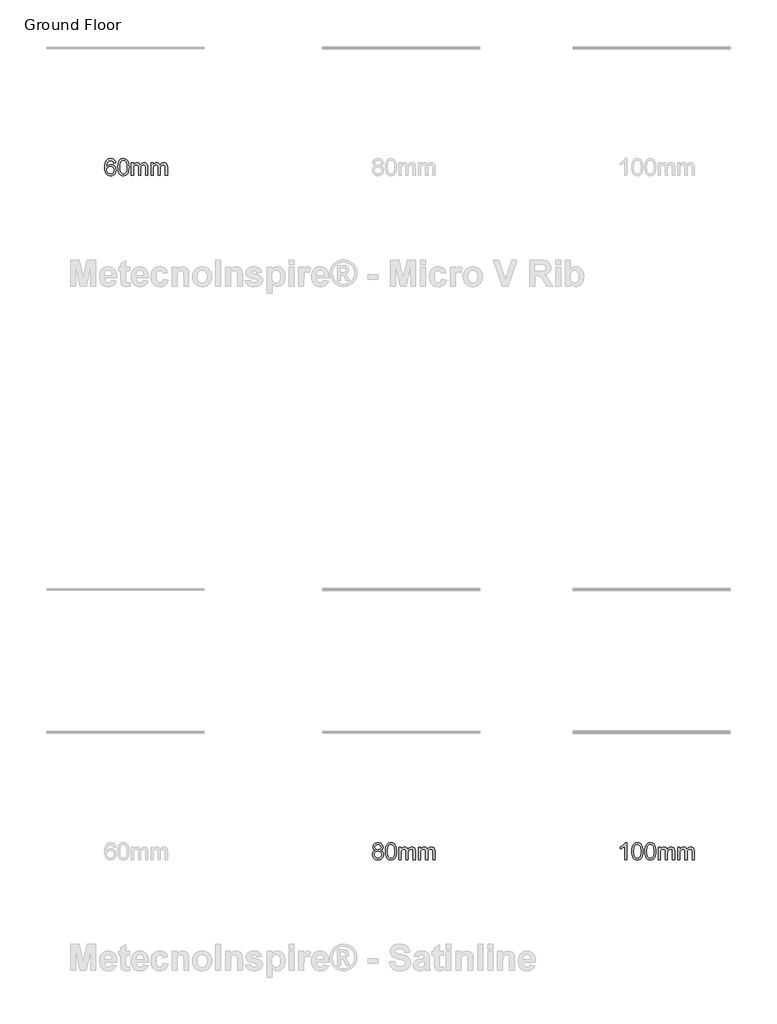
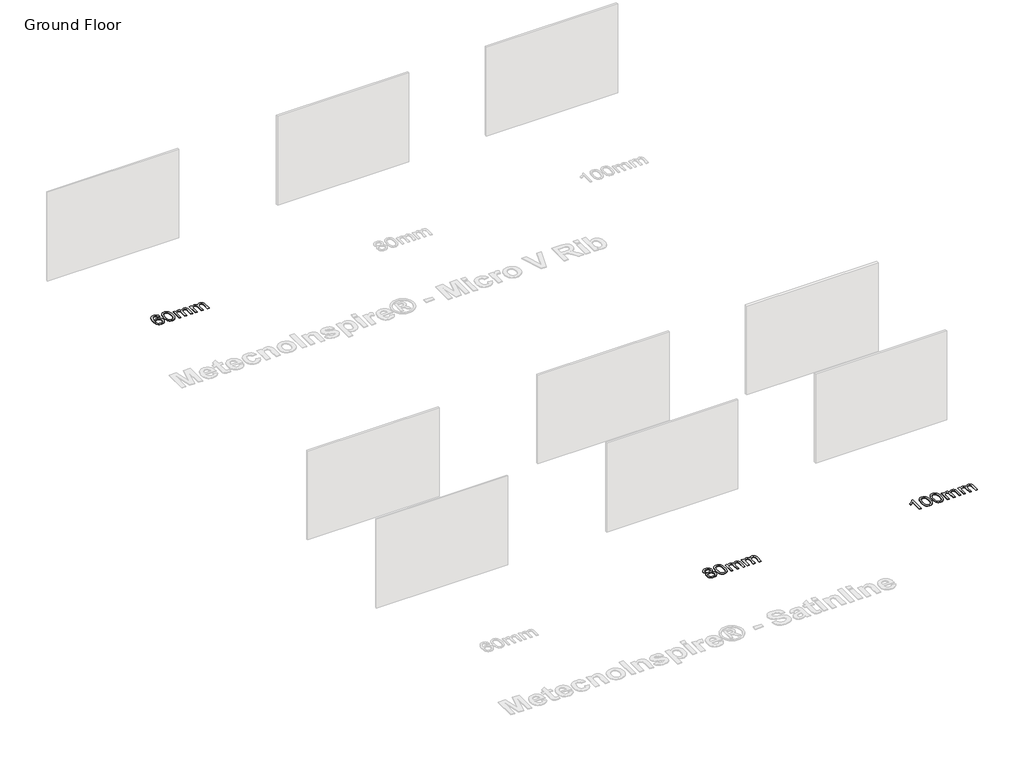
# One storey, part 6 of 14: 3 proxies.
"""IFC4 building model written with IfcOpenShell, lengths in millimetres."""

from ifc_helpers import new_model, si_unit, origin, origin_with_axes, place, context, project, spatial, polyline, outline, extrude, element, save

model = new_model("IFC4")

# Units and contexts
model_context = context("Model", 3, world=origin())
ifc_project = project(units=[si_unit("LENGTHUNIT", "METRE", prefix="MILLI")], contexts=[model_context])

# Site, building, storey
site = spatial("IfcSite", under=ifc_project)
building = spatial("IfcBuilding", under=site)
storey = spatial("IfcBuildingStorey", under=building, Name="Ground Floor", Elevation=0.0)

# Proxies
placement = place(None, origin())
element("IfcBuildingElementProxy", 1, Name="600mm Arial", ObjectType="600mm Arial", at=placement, inside=storey, context=model_context, shape_type="SweptSolid", body=[
    extrude(outline(polyline([(1909.1693094, -73892.2982382), (1833.8270768, -73901.7160173), (1821.6869709, -73864.3759948), (1805.279434, -73838.8817725), (1789.0834291, -73825.1689712), (1771.1031966, -73815.374113), (1751.3387364, -73809.4971982), (1729.7900485, -73807.5382265), (1694.7676826, -73812.0999633), (1661.8054558, -73825.7851735), (1633.4969363, -73854.6087278), (1610.3755529, -73894.284801), (1601.3394514, -73919.5904838), (1594.7589622, -73950.4051994), (1588.9648208, -74028.5617292), (1619.1863267, -73993.30024), (1655.4043091, -73968.4498112), (1695.5954171, -73953.7161373), (1737.7362996, -73948.8049127), (1773.935888, -73952.1618359), (1807.3395731, -73962.2326055), (1837.9473551, -73979.0172215), (1865.759234, -74002.515684), (1888.8714203, -74031.3300413), (1905.3801248, -74064.0623418), (1915.2853476, -74100.7125856), (1918.5870885, -74141.2807726), (1917.032787, -74168.747762), (1912.3698827, -74195.2306672), (1904.5983756, -74220.729488), (1893.7182656, -74245.2442244), (1880.1158288, -74267.8597701), (1864.1773414, -74287.6610185), (1845.9028033, -74304.6479696), (1825.2922145, -74318.8206234), (1802.7870334, -74329.9904405), (1778.8287185, -74337.9688813), (1753.4172697, -74342.7559458), (1726.552687, -74344.3516339), (1681.6388939, -74340.120991), (1641.0753054, -74327.4290621), (1604.8619215, -74306.2758474), (1572.9987422, -74276.6613468), (1547.0216748, -74237.3347615), (1528.4666267, -74187.0452928), (1517.3335978, -74125.7929406), (1513.6225882, -74053.5777049), (1517.7428665, -73972.6160748), (1530.1037016, -73903.5186391), (1550.7050933, -73846.2853977), (1564.0959979, -73822.1178499), (1579.5470417, -73800.9163506), (1610.8078143, -73770.8511946), (1647.0533878, -73749.3760831), (1688.2837624, -73736.4910162), (1734.4989381, -73732.1959939), (1769.1994073, -73734.8539413), (1800.6073326, -73742.8277836), (1828.7227141, -73756.1175207), (1853.5455517, -73774.7231526), (1874.4044608, -73798.0192799), (1890.6280568, -73825.3805033), (1902.2163397, -73856.8068227), (1909.1693094, -73892.2982382)]), holes=[polyline([(1588.9648208, -74140.1035502), (1593.3242224, -74173.4888412), (1606.4024274, -74205.3658161), (1626.7095135, -74232.7730248), (1652.7555588, -74252.7490171), (1684.1910752, -74264.9443052), (1720.6665751, -74269.0094013), (1746.8551746, -74266.9032769), (1770.3858267, -74260.5849036), (1791.2585314, -74250.0542815), (1809.4732887, -74235.3114105), (1824.2483493, -74216.954099), (1834.8019641, -74195.5801551), (1841.1341329, -74171.1895788), (1843.2448559, -74143.7823701), (1841.1617241, -74117.4466178), (1834.9123287, -74094.0631185), (1824.4966697, -74073.6318722), (1809.9147471, -74056.1528789), (1791.6448075, -74042.1503704), (1770.1650975, -74032.1485787), (1745.4756171, -74026.1475037), (1717.5763663, -74024.1471453), (1691.7372547, -74026.1475037), (1667.9306911, -74032.1485787), (1646.1566755, -74042.1503704), (1626.4152079, -74056.1528789), (1610.0306635, -74073.4019459), (1598.3274176, -74093.1434135), (1591.30547, -74115.3772816), (1588.9648208, -74140.1035502)])]), origin_with_axes(), (0.0, 0.0, 1.0), 20.0),
    extrude(outline(polyline([(1984.511542, -74038.4209667), (1990.048166, -73941.9439135), (1996.9689461, -73901.0308371), (2006.6580381, -73865.0013942), (2019.0740554, -73833.5612792), (2034.1756114, -73806.4161865), (2051.9627058, -73783.566116), (2072.4353388, -73765.0110679), (2095.6624883, -73750.654473), (2121.7131321, -73740.3997624), (2150.5872702, -73734.2469361), (2182.2849026, -73732.1959939), (2228.7116104, -73737.0520363), (2270.2822759, -73751.6201633), (2305.0471244, -73775.3301579), (2331.0563815, -73807.6118029), (2350.70128, -73848.189187), (2366.373053, -73896.7863986), (2376.6369607, -73958.4986033), (2380.0582632, -74038.4209667), (2374.5768215, -74134.346197), (2367.7250193, -74175.1213176), (2358.1324963, -74211.1047753), (2345.813048, -74242.5586858), (2330.78047, -74269.7451653), (2313.0347622, -74292.6642136), (2292.5759248, -74311.3158307), (2269.3211841, -74325.7689946), (2243.1877669, -74336.0926831), (2214.1756731, -74342.2868962), (2182.2849026, -74344.3516339), (2140.7878136, -74340.7647845), (2103.999614, -74330.0042361), (2071.9203041, -74312.0699888), (2044.5498836, -74286.9620427), (2018.2831092, -74241.5746015), (1999.5211274, -74185.0219418), (1988.2639384, -74117.3040635), (1984.511542, -74038.4209667)]), holes=[polyline([(2059.8537746, -74038.2738139), (2062.0610666, -74103.7706046), (2068.6829425, -74156.7869987), (2079.7194024, -74197.322996), (2095.1704462, -74225.3785967), (2113.8588515, -74244.4670737), (2134.607396, -74258.1017001), (2157.4160797, -74266.282476), (2182.2849026, -74269.0094013), (2207.1537255, -74266.273279), (2229.9624092, -74258.0649119), (2250.7109537, -74244.3843002), (2269.3993591, -74225.2314439), (2284.8504029, -74197.129858), (2295.8868627, -74156.6030577), (2302.5087386, -74103.651043), (2304.7160306, -74038.2738139), (2302.582315, -73974.5106671), (2296.1811683, -73922.4277736), (2285.5125905, -73882.0251335), (2270.5765815, -73853.3027467), (2252.2008758, -73833.2807692), (2231.213208, -73818.9793566), (2207.613578, -73810.3985091), (2181.4019858, -73807.5382265), (2156.6619216, -73810.0582182), (2134.239514, -73817.6181932), (2114.134763, -73830.2181515), (2096.3476685, -73847.8580932), (2080.3815899, -73879.1280628), (2068.9772481, -73921.2873395), (2062.134643, -73974.3359232), (2059.8537746, -74038.2738139)])]), origin_with_axes(), (0.0, 0.0, 1.0), 20.0),
    extrude(outline(polyline([(2464.8182749, -74334.9338548), (2464.8182749, -73892.2982382), (2540.1605075, -73892.2982382), (2540.1605075, -73965.1388733), (2562.8220384, -73931.6800058), (2591.9582924, -73905.4684137), (2626.5759882, -73888.5274478), (2665.6818443, -73882.8804592), (2707.5836035, -73888.6378124), (2725.4166832, -73895.8345039), (2741.1712297, -73905.9098721), (2766.2607818, -73933.556204), (2782.6683187, -73970.436374), (2810.1307097, -73932.1306613), (2841.4558616, -73904.7694379), (2876.6437744, -73888.3527038), (2915.6944482, -73882.8804592), (2945.8561733, -73885.156729), (2972.3298814, -73891.9855385), (2995.1155724, -73903.3668878), (3014.2132465, -73919.3007767), (3029.3102039, -73939.9711463), (3040.0937449, -73965.5619376), (3046.5638695, -73996.0731505), (3048.7205776, -74031.5047852), (3048.7205776, -74334.9338548), (2973.378345, -74334.9338548), (2973.378345, -74063.8784008), (2971.6309056, -74026.299255), (2966.3885871, -74000.9705796), (2956.5661379, -73983.6249435), (2941.0783059, -73969.9949156), (2921.1574958, -73961.1657477), (2898.0361124, -73958.2226918), (2876.6851611, -73960.108087), (2857.2196051, -73965.7642727), (2839.6394442, -73975.1912488), (2823.9446786, -73988.3890154), (2811.0366191, -74005.7438485), (2801.8165766, -74027.6420243), (2796.2845511, -74054.0835427), (2794.4405426, -74085.0684037), (2794.4405426, -74334.9338548), (2719.09831, -74334.9338548), (2719.09831, -74055.4906913), (2714.7389083, -74012.8899563), (2709.2896563, -73996.1697196), (2701.6607034, -73982.5029035), (2691.5485471, -73971.8803108), (2678.6496846, -73964.2927447), (2662.964116, -73959.740205), (2644.4918413, -73958.2226918), (2615.4659519, -73962.2693937), (2588.7209309, -73974.4094996), (2566.6480112, -73994.3487037), (2551.6384258, -74021.7927005), (2543.0299871, -74059.868487), (2540.1605075, -74111.7030602), (2540.1605075, -74334.9338548), (2464.8182749, -74334.9338548)])), origin_with_axes(), (0.0, 0.0, 1.0), 20.0),
    extrude(outline(polyline([(3161.7339266, -74334.9338548), (3161.7339266, -73892.2982382), (3237.0761592, -73892.2982382), (3237.0761592, -73965.1388733), (3259.7376901, -73931.6800058), (3288.8739441, -73905.4684137), (3323.4916398, -73888.5274478), (3362.5974959, -73882.8804592), (3404.4992552, -73888.6378124), (3422.3323349, -73895.8345039), (3438.0868813, -73905.9098721), (3463.1764334, -73933.556204), (3479.5839704, -73970.436374), (3507.0463613, -73932.1306613), (3538.3715132, -73904.7694379), (3573.5594261, -73888.3527038), (3612.6100999, -73882.8804592), (3642.7718249, -73885.156729), (3669.245533, -73891.9855385), (3692.0312241, -73903.3668878), (3711.1288982, -73919.3007767), (3726.2258555, -73939.9711463), (3737.0093965, -73965.5619376), (3743.4795211, -73996.0731505), (3745.6362293, -74031.5047852), (3745.6362293, -74334.9338548), (3670.2939967, -74334.9338548), (3670.2939967, -74063.8784008), (3668.5465572, -74026.299255), (3663.3042388, -74000.9705796), (3653.4817895, -73983.6249435), (3637.9939575, -73969.9949156), (3618.0731475, -73961.1657477), (3594.9517641, -73958.2226918), (3573.6008128, -73960.108087), (3554.1352567, -73965.7642727), (3536.5550959, -73975.1912488), (3520.8603303, -73988.3890154), (3507.9522708, -74005.7438485), (3498.7322282, -74027.6420243), (3493.2002027, -74054.0835427), (3491.3561942, -74085.0684037), (3491.3561942, -74334.9338548), (3416.0139616, -74334.9338548), (3416.0139616, -74055.4906913), (3411.65456, -74012.8899563), (3406.2053079, -73996.1697196), (3398.5763551, -73982.5029035), (3388.4641987, -73971.8803108), (3375.5653363, -73964.2927447), (3359.8797677, -73959.740205), (3341.407493, -73958.2226918), (3312.3816036, -73962.2693937), (3285.6365825, -73974.4094996), (3263.5636628, -73994.3487037), (3248.5540774, -74021.7927005), (3239.9456387, -74059.868487), (3237.0761592, -74111.7030602), (3237.0761592, -74334.9338548), (3161.7339266, -74334.9338548)])), origin_with_axes(), (0.0, 0.0, 1.0), 20.0),
])
element("IfcBuildingElementProxy", 2, Name="600mm Arial", ObjectType="600mm Arial", at=placement, inside=storey, context=model_context, shape_type="SweptSolid", body=[
    extrude(outline(polyline([(11141.1435647, -98307.7571424), (11100.8053039, -98287.8915146), (11085.1473265, -98275.3099504), (11072.4967844, -98260.9625526), (11055.7765477, -98227.5220792), (11050.2031355, -98188.1219176), (11053.2381619, -98157.3945739), (11062.3432413, -98129.2240101), (11077.5183736, -98103.6102262), (11098.7635588, -98080.5532222), (11125.0579244, -98061.4969348), (11155.3805979, -98047.885301), (11189.7315792, -98039.7183207), (11228.1108683, -98036.9959939), (11266.6740985, -98039.7827), (11301.2825972, -98048.1428184), (11331.9363644, -98062.076349), (11358.6354002, -98081.5832917), (11380.2668615, -98105.0909512), (11395.7179053, -98131.0266319), (11404.9885316, -98159.3903337), (11408.0787404, -98190.1820567), (11402.5789046, -98228.3130255), (11386.0793971, -98261.1832818), (11373.6587812, -98275.4341106), (11358.3962769, -98287.9466969), (11319.3456031, -98307.7571424), (11344.1086599, -98318.292363), (11365.7171286, -98331.651078), (11384.1710092, -98347.8332872), (11399.4703017, -98366.8389908), (11411.4770503, -98388.2451244), (11420.0532993, -98411.6286237), (11425.1990487, -98436.9894888), (11426.9142985, -98464.3277195), (11423.5113901, -98501.9068653), (11413.3026647, -98536.3590142), (11396.2881224, -98567.6841661), (11372.4677632, -98595.882321), (11343.0923859, -98619.1876454), (11309.4127893, -98635.8343057), (11271.4289733, -98645.8223019), (11229.1409379, -98649.1516339), (11186.8529026, -98645.8085063), (11148.8690866, -98635.7791234), (11115.1894899, -98619.0634852), (11085.8141126, -98595.6615918), (11061.9937534, -98567.2657003), (11044.9792111, -98535.5680679), (11034.7704858, -98500.5686946), (11031.3675773, -98462.2675804), (11033.151805, -98433.6831493), (11038.504488, -98407.5267395), (11047.4256264, -98383.7983508), (11059.9152201, -98362.4979833), (11075.6973577, -98344.011913), (11094.4961277, -98328.7264161), (11116.31153, -98316.6414926), (11141.1435647, -98307.7571424)]), holes=[polyline([(11106.7098099, -98459.61883), (11109.855201, -98488.4423843), (11119.2913742, -98516.3462336), (11136.7105866, -98540.6816276), (11163.8050956, -98558.7998159), (11196.2522876, -98570.0570049), (11229.7295491, -98573.8094013), (11256.9712109, -98571.8366341), (11281.0122992, -98565.9183325), (11301.8528143, -98556.0544965), (11319.4927559, -98542.2451261), (11333.5274541, -98525.3915322), (11343.5522384, -98506.3950257), (11349.567109, -98485.2556065), (11351.5720659, -98461.9732748), (11349.5027297, -98438.3184625), (11343.294721, -98416.7973658), (11332.9480399, -98397.4099846), (11318.4626864, -98380.156319), (11300.3444981, -98365.9928622), (11279.0993129, -98355.8761074), (11254.7271307, -98349.8060544), (11227.2279516, -98347.7827035), (11200.3863615, -98349.7784633), (11176.6625713, -98355.7657428), (11156.0565811, -98365.7445419), (11138.5683907, -98379.7148606), (11124.6302616, -98396.6834177), (11114.6744551, -98415.6569316), (11108.7009712, -98436.6354023), (11106.7098099, -98459.61883)]), polyline([(11125.5453681, -98190.3292095), (11127.2146326, -98207.6012692), (11132.2224263, -98223.2178599), (11140.5687491, -98237.1789816), (11152.2536009, -98249.4846343), (11167.1298291, -98259.5278128), (11185.0502808, -98266.7015117), (11206.014956, -98271.0057311), (11230.0238547, -98272.4404708), (11253.4395437, -98271.0149281), (11273.9489649, -98266.7382999), (11291.5521184, -98259.6105863), (11306.2490041, -98249.6317871), (11317.837287, -98237.5836518), (11326.1146319, -98224.2479295), (11331.0810388, -98209.6246202), (11332.7365078, -98193.7137239), (11331.0258565, -98177.1820267), (11325.8939027, -98162.02069), (11317.3406463, -98148.2297137), (11305.3660873, -98135.8090978), (11290.3381078, -98125.5405916), (11272.6245898, -98118.2059444), (11252.2255331, -98113.805156), (11229.1409379, -98112.3382265), (11205.8770003, -98113.7729663), (11185.3813746, -98118.0771857), (11167.654061, -98125.2508846), (11152.6950593, -98135.294063), (11140.8170694, -98147.3421984), (11132.3327909, -98160.5307679), (11127.2422238, -98174.8597716), (11125.5453681, -98190.3292095)])]), origin_with_axes(), (0.0, 0.0, 1.0), 20.0),
    extrude(outline(polyline([(11492.8387521, -98343.2209667), (11498.3753761, -98246.7439135), (11505.2961561, -98205.8308371), (11514.9852482, -98169.8013942), (11527.4012655, -98138.3612792), (11542.5028214, -98111.2161865), (11560.2899159, -98088.366116), (11580.7625489, -98069.8110679), (11603.9896984, -98055.454473), (11630.0403422, -98045.1997624), (11658.9144803, -98039.0469361), (11690.6121127, -98036.9959939), (11737.0388205, -98041.8520363), (11778.6094859, -98056.4201633), (11813.3743345, -98080.1301579), (11839.3835915, -98112.4118029), (11859.0284901, -98152.989187), (11874.7002631, -98201.5863986), (11884.9641707, -98263.2986033), (11888.3854733, -98343.2209667), (11882.9040316, -98439.146197), (11876.0522294, -98479.9213176), (11866.4597064, -98515.9047753), (11854.1402581, -98547.3586858), (11839.10768, -98574.5451653), (11821.3619723, -98597.4642136), (11800.9031348, -98616.1158307), (11777.6483942, -98630.5689946), (11751.514977, -98640.8926831), (11722.5028831, -98647.0868962), (11690.6121127, -98649.1516339), (11649.1150236, -98645.5647845), (11612.3268241, -98634.8042361), (11580.2475141, -98616.8699888), (11552.8770937, -98591.7620427), (11526.6103192, -98546.3746015), (11507.8483375, -98489.8219418), (11496.5911484, -98422.1040635), (11492.8387521, -98343.2209667)]), holes=[polyline([(11568.1809847, -98343.0738139), (11570.3882767, -98408.5706046), (11577.0101526, -98461.5869987), (11588.0466124, -98502.122996), (11603.4976562, -98530.1785967), (11622.1860616, -98549.2670737), (11642.9346061, -98562.9017001), (11665.7432898, -98571.082476), (11690.6121127, -98573.8094013), (11715.4809356, -98571.073279), (11738.2896193, -98562.8649119), (11759.0381638, -98549.1843002), (11777.7265691, -98530.0314439), (11793.1776129, -98501.929858), (11804.2140728, -98461.4030577), (11810.8359487, -98408.451043), (11813.0432407, -98343.0738139), (11810.9095251, -98279.3106671), (11804.5083784, -98227.2277736), (11793.8398005, -98186.8251335), (11778.9037915, -98158.1027467), (11760.5280859, -98138.0807692), (11739.540418, -98123.7793566), (11715.940788, -98115.1985091), (11689.7291959, -98112.3382265), (11664.9891317, -98114.8582182), (11642.5667241, -98122.4181932), (11622.4619731, -98135.0181515), (11604.6748786, -98152.6580932), (11588.7088, -98183.9280628), (11577.3044582, -98226.0873395), (11570.4618531, -98279.1359232), (11568.1809847, -98343.0738139)])]), origin_with_axes(), (0.0, 0.0, 1.0), 20.0),
    extrude(outline(polyline([(11973.145485, -98639.7338548), (11973.145485, -98197.0982382), (12048.4877176, -98197.0982382), (12048.4877176, -98269.9388733), (12071.1492485, -98236.4800058), (12100.2855025, -98210.2684137), (12134.9031983, -98193.3274478), (12174.0090543, -98187.6804592), (12215.9108136, -98193.4378124), (12233.7438933, -98200.6345039), (12249.4984397, -98210.7098721), (12274.5879918, -98238.356204), (12290.9955288, -98275.236374), (12318.4579197, -98236.9306613), (12349.7830716, -98209.5694379), (12384.9709845, -98193.1527038), (12424.0216583, -98187.6804592), (12454.1833833, -98189.956729), (12480.6570914, -98196.7855385), (12503.4427825, -98208.1668878), (12522.5404566, -98224.1007767), (12537.6374139, -98244.7711463), (12548.4209549, -98270.3619376), (12554.8910795, -98300.8731505), (12557.0477877, -98336.3047852), (12557.0477877, -98639.7338548), (12481.7055551, -98639.7338548), (12481.7055551, -98368.6784008), (12479.9581156, -98331.099255), (12474.7157972, -98305.7705796), (12464.8933479, -98288.4249435), (12449.4055159, -98274.7949156), (12429.4847059, -98265.9657477), (12406.3633225, -98263.0226918), (12385.0123712, -98264.908087), (12365.5468151, -98270.5642727), (12347.9666543, -98279.9912488), (12332.2718887, -98293.1890154), (12319.3638292, -98310.5438485), (12310.1437867, -98332.4420243), (12304.6117612, -98358.8835427), (12302.7677527, -98389.8684037), (12302.7677527, -98639.7338548), (12227.42552, -98639.7338548), (12227.42552, -98360.2906913), (12223.0661184, -98317.6899563), (12217.6168663, -98300.9697196), (12209.9879135, -98287.3029035), (12199.8757571, -98276.6803108), (12186.9768947, -98269.0927447), (12171.2913261, -98264.540205), (12152.8190514, -98263.0226918), (12123.793162, -98267.0693937), (12097.0481409, -98279.2094996), (12074.9752212, -98299.1487037), (12059.9656358, -98326.5927005), (12051.3571971, -98364.668487), (12048.4877176, -98416.5030602), (12048.4877176, -98639.7338548), (11973.145485, -98639.7338548)])), origin_with_axes(), (0.0, 0.0, 1.0), 20.0),
    extrude(outline(polyline([(12670.0611366, -98639.7338548), (12670.0611366, -98197.0982382), (12745.4033692, -98197.0982382), (12745.4033692, -98269.9388733), (12768.0649002, -98236.4800058), (12797.2011542, -98210.2684137), (12831.8188499, -98193.3274478), (12870.924706, -98187.6804592), (12912.8264653, -98193.4378124), (12930.659545, -98200.6345039), (12946.4140914, -98210.7098721), (12971.5036435, -98238.356204), (12987.9111805, -98275.236374), (13015.3735714, -98236.9306613), (13046.6987233, -98209.5694379), (13081.8866361, -98193.1527038), (13120.9373099, -98187.6804592), (13151.099035, -98189.956729), (13177.5727431, -98196.7855385), (13200.3584342, -98208.1668878), (13219.4561082, -98224.1007767), (13234.5530656, -98244.7711463), (13245.3366066, -98270.3619376), (13251.8067312, -98300.8731505), (13253.9634394, -98336.3047852), (13253.9634394, -98639.7338548), (13178.6212068, -98639.7338548), (13178.6212068, -98368.6784008), (13176.8737673, -98331.099255), (13171.6314489, -98305.7705796), (13161.8089996, -98288.4249435), (13146.3211676, -98274.7949156), (13126.4003576, -98265.9657477), (13103.2789742, -98263.0226918), (13081.9280229, -98264.908087), (13062.4624668, -98270.5642727), (13044.8823059, -98279.9912488), (13029.1875403, -98293.1890154), (13016.2794808, -98310.5438485), (13007.0594383, -98332.4420243), (13001.5274128, -98358.8835427), (12999.6834043, -98389.8684037), (12999.6834043, -98639.7338548), (12924.3411717, -98639.7338548), (12924.3411717, -98360.2906913), (12919.9817701, -98317.6899563), (12914.532518, -98300.9697196), (12906.9035651, -98287.3029035), (12896.7914088, -98276.6803108), (12883.8925463, -98269.0927447), (12868.2069778, -98264.540205), (12849.7347031, -98263.0226918), (12820.7088137, -98267.0693937), (12793.9637926, -98279.2094996), (12771.8908729, -98299.1487037), (12756.8812875, -98326.5927005), (12748.2728488, -98364.668487), (12745.4033692, -98416.5030602), (12745.4033692, -98639.7338548), (12670.0611366, -98639.7338548)])), origin_with_axes(), (0.0, 0.0, 1.0), 20.0),
])
element("IfcBuildingElementProxy", 3, Name="600mm Arial", ObjectType="600mm Arial", at=placement, inside=storey, context=model_context, shape_type="SweptSolid", body=[
    extrude(outline(polyline([(20070.5052979, -98639.7338548), (19995.1630653, -98639.7338548), (19995.1630653, -98170.0221234), (19963.7091547, -98195.4611634), (19923.7939582, -98220.8634151), (19881.892199, -98243.0650935), (19844.4786001, -98258.9024134), (19844.4786001, -98187.6804592), (19903.652419, -98155.4907846), (19954.916775, -98117.1942689), (19995.3286122, -98076.469732), (20021.9448746, -98036.9959939), (20070.5052979, -98036.9959939), (20070.5052979, -98639.7338548)])), origin_with_axes(), (0.0, 0.0, 1.0), 20.0),
    extrude(outline(polyline([(20249.4431004, -98343.2209667), (20254.9797244, -98246.7439135), (20261.9005044, -98205.8308371), (20271.5895965, -98169.8013942), (20284.0056138, -98138.3612792), (20299.1071697, -98111.2161865), (20316.8942642, -98088.366116), (20337.3668972, -98069.8110679), (20360.5940467, -98055.454473), (20386.6446905, -98045.1997624), (20415.5188286, -98039.0469361), (20447.216461, -98036.9959939), (20493.6431688, -98041.8520363), (20535.2138342, -98056.4201633), (20569.9786828, -98080.1301579), (20595.9879398, -98112.4118029), (20615.6328384, -98152.989187), (20631.3046114, -98201.5863986), (20641.568519, -98263.2986033), (20644.9898216, -98343.2209667), (20639.5083799, -98439.146197), (20632.6565777, -98479.9213176), (20623.0640547, -98515.9047753), (20610.7446064, -98547.3586858), (20595.7120283, -98574.5451653), (20577.9663206, -98597.4642136), (20557.5074831, -98616.1158307), (20534.2527425, -98630.5689946), (20508.1193253, -98640.8926831), (20479.1072314, -98647.0868962), (20447.216461, -98649.1516339), (20405.7193719, -98645.5647845), (20368.9311724, -98634.8042361), (20336.8518624, -98616.8699888), (20309.481442, -98591.7620427), (20283.2146675, -98546.3746015), (20264.4526858, -98489.8219418), (20253.1954967, -98422.1040635), (20249.4431004, -98343.2209667)]), holes=[polyline([(20324.785333, -98343.0738139), (20326.992625, -98408.5706046), (20333.6145009, -98461.5869987), (20344.6509607, -98502.122996), (20360.1020045, -98530.1785967), (20378.7904099, -98549.2670737), (20399.5389544, -98562.9017001), (20422.3476381, -98571.082476), (20447.216461, -98573.8094013), (20472.0852839, -98571.073279), (20494.8939676, -98562.8649119), (20515.6425121, -98549.1843002), (20534.3309174, -98530.0314439), (20549.7819612, -98501.929858), (20560.8184211, -98461.4030577), (20567.440297, -98408.451043), (20569.647589, -98343.0738139), (20567.5138734, -98279.3106671), (20561.1127267, -98227.2277736), (20550.4441488, -98186.8251335), (20535.5081398, -98158.1027467), (20517.1324342, -98138.0807692), (20496.1447663, -98123.7793566), (20472.5451364, -98115.1985091), (20446.3335442, -98112.3382265), (20421.59348, -98114.8582182), (20399.1710724, -98122.4181932), (20379.0663214, -98135.0181515), (20361.2792269, -98152.6580932), (20345.3131483, -98183.9280628), (20333.9088065, -98226.0873395), (20327.0662014, -98279.1359232), (20324.785333, -98343.0738139)])]), origin_with_axes(), (0.0, 0.0, 1.0), 20.0),
    extrude(outline(polyline([(20710.9142751, -98343.2209667), (20716.4508992, -98246.7439135), (20723.3716792, -98205.8308371), (20733.0607712, -98169.8013942), (20745.4767886, -98138.3612792), (20760.5783445, -98111.2161865), (20778.3654389, -98088.366116), (20798.838072, -98069.8110679), (20822.0652214, -98055.454473), (20848.1158652, -98045.1997624), (20876.9900033, -98039.0469361), (20908.6876357, -98036.9959939), (20955.1143435, -98041.8520363), (20996.685009, -98056.4201633), (21031.4498575, -98080.1301579), (21057.4591146, -98112.4118029), (21077.1040131, -98152.989187), (21092.7757861, -98201.5863986), (21103.0396938, -98263.2986033), (21106.4609963, -98343.2209667), (21100.9795546, -98439.146197), (21094.1277525, -98479.9213176), (21084.5352294, -98515.9047753), (21072.2157811, -98547.3586858), (21057.1832031, -98574.5451653), (21039.4374953, -98597.4642136), (21018.9786579, -98616.1158307), (20995.7239173, -98630.5689946), (20969.5905, -98640.8926831), (20940.5784062, -98647.0868962), (20908.6876357, -98649.1516339), (20867.1905467, -98645.5647845), (20830.4023472, -98634.8042361), (20798.3230372, -98616.8699888), (20770.9526167, -98591.7620427), (20744.6858423, -98546.3746015), (20725.9238605, -98489.8219418), (20714.6666715, -98422.1040635), (20710.9142751, -98343.2209667)]), holes=[polyline([(20786.2565077, -98343.0738139), (20788.4637997, -98408.5706046), (20795.0856756, -98461.5869987), (20806.1221355, -98502.122996), (20821.5731793, -98530.1785967), (20840.2615846, -98549.2670737), (20861.0101292, -98562.9017001), (20883.8188129, -98571.082476), (20908.6876357, -98573.8094013), (20933.5564586, -98571.073279), (20956.3651423, -98562.8649119), (20977.1136868, -98549.1843002), (20995.8020922, -98530.0314439), (21011.253136, -98501.929858), (21022.2895958, -98461.4030577), (21028.9114718, -98408.451043), (21031.1187637, -98343.0738139), (21028.9850482, -98279.3106671), (21022.5839014, -98227.2277736), (21011.9153236, -98186.8251335), (20996.9793146, -98158.1027467), (20978.6036089, -98138.0807692), (20957.6159411, -98123.7793566), (20934.0163111, -98115.1985091), (20907.8047189, -98112.3382265), (20883.0646548, -98114.8582182), (20860.6422472, -98122.4181932), (20840.5374961, -98135.0181515), (20822.7504017, -98152.6580932), (20806.7843231, -98183.9280628), (20795.3799812, -98226.0873395), (20788.5373761, -98279.1359232), (20786.2565077, -98343.0738139)])]), origin_with_axes(), (0.0, 0.0, 1.0), 20.0),
    extrude(outline(polyline([(21191.221008, -98639.7338548), (21191.221008, -98197.0982382), (21266.5632406, -98197.0982382), (21266.5632406, -98269.9388733), (21289.2247715, -98236.4800058), (21318.3610256, -98210.2684137), (21352.9787213, -98193.3274478), (21392.0845774, -98187.6804592), (21433.9863366, -98193.4378124), (21451.8194164, -98200.6345039), (21467.5739628, -98210.7098721), (21492.6635149, -98238.356204), (21509.0710519, -98275.236374), (21536.5334428, -98236.9306613), (21567.8585947, -98209.5694379), (21603.0465075, -98193.1527038), (21642.0971813, -98187.6804592), (21672.2589064, -98189.956729), (21698.7326145, -98196.7855385), (21721.5183056, -98208.1668878), (21740.6159796, -98224.1007767), (21755.712937, -98244.7711463), (21766.496478, -98270.3619376), (21772.9666026, -98300.8731505), (21775.1233108, -98336.3047852), (21775.1233108, -98639.7338548), (21699.7810782, -98639.7338548), (21699.7810782, -98368.6784008), (21698.0336387, -98331.099255), (21692.7913203, -98305.7705796), (21682.968871, -98288.4249435), (21667.481039, -98274.7949156), (21647.5602289, -98265.9657477), (21624.4388456, -98263.0226918), (21603.0878943, -98264.908087), (21583.6223382, -98270.5642727), (21566.0421773, -98279.9912488), (21550.3474117, -98293.1890154), (21537.4393522, -98310.5438485), (21528.2193097, -98332.4420243), (21522.6872842, -98358.8835427), (21520.8432757, -98389.8684037), (21520.8432757, -98639.7338548), (21445.5010431, -98639.7338548), (21445.5010431, -98360.2906913), (21441.1416415, -98317.6899563), (21435.6923894, -98300.9697196), (21428.0634365, -98287.3029035), (21417.9512802, -98276.6803108), (21405.0524177, -98269.0927447), (21389.3668492, -98264.540205), (21370.8945745, -98263.0226918), (21341.8686851, -98267.0693937), (21315.123664, -98279.2094996), (21293.0507443, -98299.1487037), (21278.0411589, -98326.5927005), (21269.4327202, -98364.668487), (21266.5632406, -98416.5030602), (21266.5632406, -98639.7338548), (21191.221008, -98639.7338548)])), origin_with_axes(), (0.0, 0.0, 1.0), 20.0),
    extrude(outline(polyline([(21888.1366597, -98639.7338548), (21888.1366597, -98197.0982382), (21963.4788923, -98197.0982382), (21963.4788923, -98269.9388733), (21986.1404232, -98236.4800058), (22015.2766772, -98210.2684137), (22049.894373, -98193.3274478), (22089.0002291, -98187.6804592), (22130.9019883, -98193.4378124), (22148.735068, -98200.6345039), (22164.4896145, -98210.7098721), (22189.5791665, -98238.356204), (22205.9867035, -98275.236374), (22233.4490945, -98236.9306613), (22264.7742464, -98209.5694379), (22299.9621592, -98193.1527038), (22339.012833, -98187.6804592), (22369.1745581, -98189.956729), (22395.6482661, -98196.7855385), (22418.4339572, -98208.1668878), (22437.5316313, -98224.1007767), (22452.6285887, -98244.7711463), (22463.4121297, -98270.3619376), (22469.8822542, -98300.8731505), (22472.0389624, -98336.3047852), (22472.0389624, -98639.7338548), (22396.6967298, -98639.7338548), (22396.6967298, -98368.6784008), (22394.9492903, -98331.099255), (22389.7069719, -98305.7705796), (22379.8845226, -98288.4249435), (22364.3966907, -98274.7949156), (22344.4758806, -98265.9657477), (22321.3544972, -98263.0226918), (22300.0035459, -98264.908087), (22280.5379898, -98270.5642727), (22262.957829, -98279.9912488), (22247.2630634, -98293.1890154), (22234.3550039, -98310.5438485), (22225.1349614, -98332.4420243), (22219.6029359, -98358.8835427), (22217.7589274, -98389.8684037), (22217.7589274, -98639.7338548), (22142.4166948, -98639.7338548), (22142.4166948, -98360.2906913), (22138.0572931, -98317.6899563), (22132.6080411, -98300.9697196), (22124.9790882, -98287.3029035), (22114.8669318, -98276.6803108), (22101.9680694, -98269.0927447), (22086.2825008, -98264.540205), (22067.8102261, -98263.0226918), (22038.7843367, -98267.0693937), (22012.0393157, -98279.2094996), (21989.966396, -98299.1487037), (21974.9568106, -98326.5927005), (21966.3483719, -98364.668487), (21963.4788923, -98416.5030602), (21963.4788923, -98639.7338548), (21888.1366597, -98639.7338548)])), origin_with_axes(), (0.0, 0.0, 1.0), 20.0),
])

save(model, "model.ifc")
